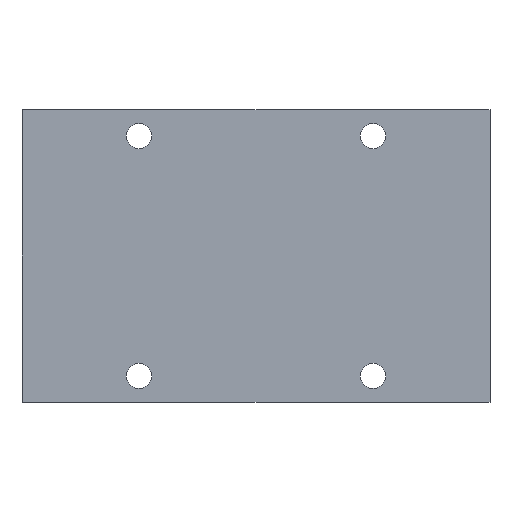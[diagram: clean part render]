
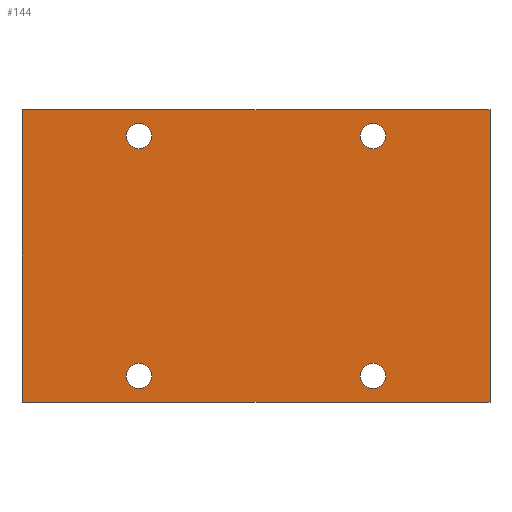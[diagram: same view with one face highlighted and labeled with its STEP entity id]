
A CAD part, front view. The second image highlights one B-rep face of the part: STEP entity #144.
In plain terms, the highlighted planar face has unit normal (0, -1, 0).
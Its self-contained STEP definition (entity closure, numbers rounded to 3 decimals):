
#10 = VERTEX_POINT ( 'NONE', #326 ) ;
#11 = ORIENTED_EDGE ( 'NONE', *, *, #379, .F. ) ;
#28 = VERTEX_POINT ( 'NONE', #880 ) ;
#35 = AXIS2_PLACEMENT_3D ( 'NONE', #1026, #937, #239 ) ;
#37 = CIRCLE ( 'NONE', #747, 2.15 ) ;
#57 = CARTESIAN_POINT ( 'NONE',  ( 20., 0., 18.35 ) ) ;
#102 = AXIS2_PLACEMENT_3D ( 'NONE', #339, #141, #136 ) ;
#108 = VECTOR ( 'NONE', #418, 1000. ) ;
#126 = EDGE_CURVE ( 'NONE', #28, #10, #37, .T. ) ;
#136 = DIRECTION ( 'NONE',  ( 0., 0., 1. ) ) ;
#139 = CARTESIAN_POINT ( 'NONE',  ( 20., 0., -20.5 ) ) ;
#141 = DIRECTION ( 'NONE',  ( 0., 1., 0. ) ) ;
#142 = CIRCLE ( 'NONE', #371, 2.15 ) ;
#144 = ADVANCED_FACE ( 'NONE', ( #733, #1154, #1222, #706, #443 ), #647, .T. ) ;
#145 = CARTESIAN_POINT ( 'NONE',  ( 20., 0., 20.5 ) ) ;
#147 = LINE ( 'NONE', #907, #108 ) ;
#185 = VERTEX_POINT ( 'NONE', #1002 ) ;
#186 = EDGE_CURVE ( 'NONE', #1228, #185, #482, .T. ) ;
#210 = CARTESIAN_POINT ( 'NONE',  ( 40., 0., -25. ) ) ;
#216 = DIRECTION ( 'NONE',  ( 0., 0., 1. ) ) ;
#220 = EDGE_CURVE ( 'NONE', #570, #821, #723, .T. ) ;
#232 = CARTESIAN_POINT ( 'NONE',  ( -40., 0., -25. ) ) ;
#239 = DIRECTION ( 'NONE',  ( 0., 0., -1. ) ) ;
#252 = EDGE_CURVE ( 'NONE', #321, #539, #1008, .T. ) ;
#259 = EDGE_LOOP ( 'NONE', ( #993, #982 ) ) ;
#262 = VERTEX_POINT ( 'NONE', #210 ) ;
#266 = DIRECTION ( 'NONE',  ( 0., 0., 1. ) ) ;
#270 = AXIS2_PLACEMENT_3D ( 'NONE', #1211, #549, #835 ) ;
#302 = DIRECTION ( 'NONE',  ( 0., 0., 1. ) ) ;
#303 = VECTOR ( 'NONE', #1065, 1000. ) ;
#321 = VERTEX_POINT ( 'NONE', #232 ) ;
#326 = CARTESIAN_POINT ( 'NONE',  ( -20., 0., -18.35 ) ) ;
#327 = DIRECTION ( 'NONE',  ( 0., 1., 0. ) ) ;
#339 = CARTESIAN_POINT ( 'NONE',  ( 20., 0., 20.5 ) ) ;
#371 = AXIS2_PLACEMENT_3D ( 'NONE', #783, #877, #216 ) ;
#379 = EDGE_CURVE ( 'NONE', #539, #1107, #147, .T. ) ;
#383 = CARTESIAN_POINT ( 'NONE',  ( 20., 0., -22.65 ) ) ;
#418 = DIRECTION ( 'NONE',  ( 1., 0., 0. ) ) ;
#432 = DIRECTION ( 'NONE',  ( 0., 1., 0. ) ) ;
#443 = FACE_OUTER_BOUND ( 'NONE', #537, .T. ) ;
#463 = DIRECTION ( 'NONE',  ( 0., 0., 1. ) ) ;
#464 = AXIS2_PLACEMENT_3D ( 'NONE', #985, #1172, #903 ) ;
#474 = CIRCLE ( 'NONE', #464, 2.15 ) ;
#482 = CIRCLE ( 'NONE', #543, 2.15 ) ;
#488 = CARTESIAN_POINT ( 'NONE',  ( -20., 0., 20.5 ) ) ;
#495 = ORIENTED_EDGE ( 'NONE', *, *, #126, .T. ) ;
#502 = AXIS2_PLACEMENT_3D ( 'NONE', #139, #327, #463 ) ;
#527 = LINE ( 'NONE', #842, #303 ) ;
#536 = ORIENTED_EDGE ( 'NONE', *, *, #1078, .F. ) ;
#537 = EDGE_LOOP ( 'NONE', ( #536, #11, #739, #715 ) ) ;
#538 = CIRCLE ( 'NONE', #608, 2.15 ) ;
#539 = VERTEX_POINT ( 'NONE', #757 ) ;
#543 = AXIS2_PLACEMENT_3D ( 'NONE', #145, #432, #1187 ) ;
#549 = DIRECTION ( 'NONE',  ( 0., 1., 0. ) ) ;
#550 = DIRECTION ( 'NONE',  ( 0., 1., 0. ) ) ;
#551 = CARTESIAN_POINT ( 'NONE',  ( -20., 0., -20.5 ) ) ;
#569 = CIRCLE ( 'NONE', #270, 2.15 ) ;
#570 = VERTEX_POINT ( 'NONE', #383 ) ;
#573 = ORIENTED_EDGE ( 'NONE', *, *, #924, .T. ) ;
#577 = CIRCLE ( 'NONE', #102, 2.15 ) ;
#607 = CARTESIAN_POINT ( 'NONE',  ( -40., 0., -25. ) ) ;
#608 = AXIS2_PLACEMENT_3D ( 'NONE', #488, #864, #302 ) ;
#615 = ORIENTED_EDGE ( 'NONE', *, *, #826, .T. ) ;
#632 = EDGE_LOOP ( 'NONE', ( #573, #495 ) ) ;
#647 = PLANE ( 'NONE',  #35 ) ;
#650 = EDGE_CURVE ( 'NONE', #708, #911, #474, .T. ) ;
#654 = ORIENTED_EDGE ( 'NONE', *, *, #650, .T. ) ;
#706 = FACE_BOUND ( 'NONE', #632, .T. ) ;
#708 = VERTEX_POINT ( 'NONE', #1077 ) ;
#715 = ORIENTED_EDGE ( 'NONE', *, *, #945, .F. ) ;
#723 = CIRCLE ( 'NONE', #502, 2.15 ) ;
#733 = FACE_BOUND ( 'NONE', #259, .T. ) ;
#739 = ORIENTED_EDGE ( 'NONE', *, *, #252, .F. ) ;
#747 = AXIS2_PLACEMENT_3D ( 'NONE', #551, #550, #266 ) ;
#757 = CARTESIAN_POINT ( 'NONE',  ( -40., 0., 25. ) ) ;
#783 = CARTESIAN_POINT ( 'NONE',  ( -20., 0., -20.5 ) ) ;
#796 = VECTOR ( 'NONE', #1069, 1000. ) ;
#799 = VECTOR ( 'NONE', #881, 1000. ) ;
#821 = VERTEX_POINT ( 'NONE', #1233 ) ;
#826 = EDGE_CURVE ( 'NONE', #911, #708, #538, .T. ) ;
#835 = DIRECTION ( 'NONE',  ( 0., 0., 1. ) ) ;
#842 = CARTESIAN_POINT ( 'NONE',  ( 40., 0., 25. ) ) ;
#864 = DIRECTION ( 'NONE',  ( 0., 1., 0. ) ) ;
#877 = DIRECTION ( 'NONE',  ( 0., 1., 0. ) ) ;
#880 = CARTESIAN_POINT ( 'NONE',  ( -20., 0., -22.65 ) ) ;
#881 = DIRECTION ( 'NONE',  ( 0., 0., 1. ) ) ;
#896 = EDGE_LOOP ( 'NONE', ( #1212, #1128 ) ) ;
#903 = DIRECTION ( 'NONE',  ( 0., 0., 1. ) ) ;
#907 = CARTESIAN_POINT ( 'NONE',  ( -40., 0., 25. ) ) ;
#911 = VERTEX_POINT ( 'NONE', #1152 ) ;
#918 = CARTESIAN_POINT ( 'NONE',  ( 40., 0., 25. ) ) ;
#924 = EDGE_CURVE ( 'NONE', #10, #28, #142, .T. ) ;
#937 = DIRECTION ( 'NONE',  ( 0., -1., 0. ) ) ;
#945 = EDGE_CURVE ( 'NONE', #262, #321, #961, .T. ) ;
#961 = LINE ( 'NONE', #607, #796 ) ;
#982 = ORIENTED_EDGE ( 'NONE', *, *, #186, .T. ) ;
#983 = EDGE_CURVE ( 'NONE', #821, #570, #569, .T. ) ;
#985 = CARTESIAN_POINT ( 'NONE',  ( -20., 0., 20.5 ) ) ;
#993 = ORIENTED_EDGE ( 'NONE', *, *, #1142, .T. ) ;
#1002 = CARTESIAN_POINT ( 'NONE',  ( 20., 0., 22.65 ) ) ;
#1008 = LINE ( 'NONE', #1165, #799 ) ;
#1026 = CARTESIAN_POINT ( 'NONE',  ( 0., 0., 0. ) ) ;
#1065 = DIRECTION ( 'NONE',  ( 0., 0., -1. ) ) ;
#1069 = DIRECTION ( 'NONE',  ( -1., 0., 0. ) ) ;
#1077 = CARTESIAN_POINT ( 'NONE',  ( -20., 0., 18.35 ) ) ;
#1078 = EDGE_CURVE ( 'NONE', #1107, #262, #527, .T. ) ;
#1107 = VERTEX_POINT ( 'NONE', #918 ) ;
#1128 = ORIENTED_EDGE ( 'NONE', *, *, #220, .T. ) ;
#1142 = EDGE_CURVE ( 'NONE', #185, #1228, #577, .T. ) ;
#1152 = CARTESIAN_POINT ( 'NONE',  ( -20., 0., 22.65 ) ) ;
#1154 = FACE_BOUND ( 'NONE', #896, .T. ) ;
#1165 = CARTESIAN_POINT ( 'NONE',  ( -40., 0., 25. ) ) ;
#1172 = DIRECTION ( 'NONE',  ( 0., 1., 0. ) ) ;
#1187 = DIRECTION ( 'NONE',  ( 0., 0., 1. ) ) ;
#1205 = EDGE_LOOP ( 'NONE', ( #615, #654 ) ) ;
#1211 = CARTESIAN_POINT ( 'NONE',  ( 20., 0., -20.5 ) ) ;
#1212 = ORIENTED_EDGE ( 'NONE', *, *, #983, .T. ) ;
#1222 = FACE_BOUND ( 'NONE', #1205, .T. ) ;
#1228 = VERTEX_POINT ( 'NONE', #57 ) ;
#1233 = CARTESIAN_POINT ( 'NONE',  ( 20., 0., -18.35 ) ) ;
